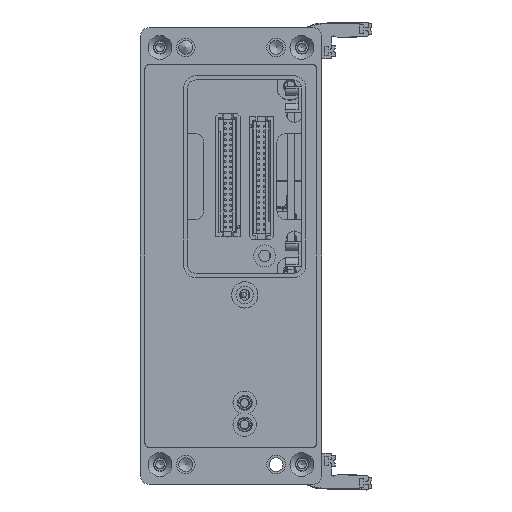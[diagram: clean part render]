
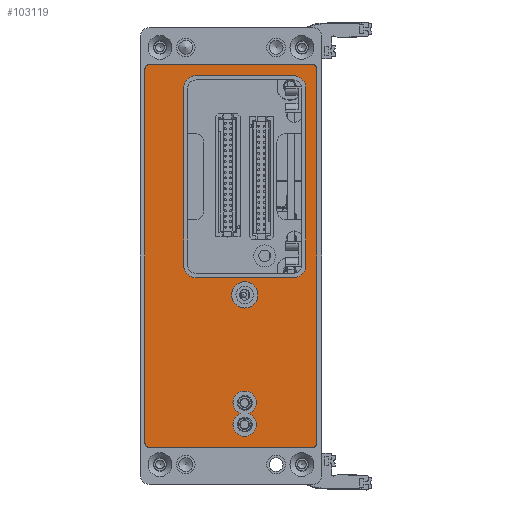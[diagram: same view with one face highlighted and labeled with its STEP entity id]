
A CAD part, front view. The second image highlights one B-rep face of the part: STEP entity #103119.
In plain terms, the highlighted planar face has unit normal (0, -1, 0).
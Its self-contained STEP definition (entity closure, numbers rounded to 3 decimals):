
#2985=FACE_BOUND('',#16515,.T.);
#2986=FACE_BOUND('',#16516,.T.);
#2987=FACE_BOUND('',#16517,.T.);
#5785=PLANE('',#110947);
#10614=FACE_OUTER_BOUND('',#16514,.T.);
#16514=EDGE_LOOP('',(#87901,#87902,#87903,#87904,#87905,#87906,#87907,#87908));
#16515=EDGE_LOOP('',(#87909,#87910));
#16516=EDGE_LOOP('',(#87911));
#16517=EDGE_LOOP('',(#87912,#87913,#87914,#87915,#87916,#87917,#87918,#87919));
#25608=LINE('',#174762,#35059);
#25612=LINE('',#174774,#35063);
#25616=LINE('',#174786,#35067);
#25620=LINE('',#174796,#35071);
#25623=LINE('',#174804,#35074);
#25627=LINE('',#174816,#35078);
#25631=LINE('',#174828,#35082);
#25635=LINE('',#174840,#35086);
#35059=VECTOR('',#134595,10.);
#35063=VECTOR('',#134607,10.);
#35067=VECTOR('',#134619,10.);
#35071=VECTOR('',#134631,10.);
#35074=VECTOR('',#134636,10.);
#35078=VECTOR('',#134648,10.);
#35082=VECTOR('',#134660,10.);
#35086=VECTOR('',#134672,10.);
#38922=CIRCLE('',#110908,2.725);
#38924=CIRCLE('',#110911,2.725);
#38925=CIRCLE('',#110913,3.05);
#38928=CIRCLE('',#110917,2.925);
#38930=CIRCLE('',#110921,2.925);
#38932=CIRCLE('',#110925,2.925);
#38934=CIRCLE('',#110929,2.925);
#38936=CIRCLE('',#110934,1.);
#38938=CIRCLE('',#110938,1.);
#38940=CIRCLE('',#110942,1.);
#38942=CIRCLE('',#110946,1.);
#47710=VERTEX_POINT('',#174735);
#47711=VERTEX_POINT('',#174737);
#47712=VERTEX_POINT('',#174744);
#47716=VERTEX_POINT('',#174753);
#47717=VERTEX_POINT('',#174755);
#47719=VERTEX_POINT('',#174761);
#47721=VERTEX_POINT('',#174767);
#47723=VERTEX_POINT('',#174773);
#47725=VERTEX_POINT('',#174779);
#47727=VERTEX_POINT('',#174785);
#47729=VERTEX_POINT('',#174791);
#47732=VERTEX_POINT('',#174801);
#47733=VERTEX_POINT('',#174803);
#47735=VERTEX_POINT('',#174809);
#47737=VERTEX_POINT('',#174815);
#47739=VERTEX_POINT('',#174821);
#47741=VERTEX_POINT('',#174827);
#47743=VERTEX_POINT('',#174833);
#47745=VERTEX_POINT('',#174839);
#61318=EDGE_CURVE('',#47711,#47710,#38922,.T.);
#61321=EDGE_CURVE('',#47710,#47711,#38924,.T.);
#61322=EDGE_CURVE('',#47712,#47712,#38925,.T.);
#61327=EDGE_CURVE('',#47717,#47716,#38928,.T.);
#61330=EDGE_CURVE('',#47719,#47717,#25608,.T.);
#61333=EDGE_CURVE('',#47721,#47719,#38930,.T.);
#61336=EDGE_CURVE('',#47723,#47721,#25612,.T.);
#61339=EDGE_CURVE('',#47725,#47723,#38932,.T.);
#61342=EDGE_CURVE('',#47727,#47725,#25616,.T.);
#61345=EDGE_CURVE('',#47729,#47727,#38934,.T.);
#61348=EDGE_CURVE('',#47716,#47729,#25620,.T.);
#61351=EDGE_CURVE('',#47733,#47732,#25623,.T.);
#61354=EDGE_CURVE('',#47735,#47733,#38936,.T.);
#61357=EDGE_CURVE('',#47737,#47735,#25627,.T.);
#61360=EDGE_CURVE('',#47739,#47737,#38938,.T.);
#61363=EDGE_CURVE('',#47741,#47739,#25631,.T.);
#61366=EDGE_CURVE('',#47743,#47741,#38940,.T.);
#61369=EDGE_CURVE('',#47745,#47743,#25635,.T.);
#61372=EDGE_CURVE('',#47732,#47745,#38942,.T.);
#87901=ORIENTED_EDGE('',*,*,#61363,.T.);
#87902=ORIENTED_EDGE('',*,*,#61360,.T.);
#87903=ORIENTED_EDGE('',*,*,#61357,.T.);
#87904=ORIENTED_EDGE('',*,*,#61354,.T.);
#87905=ORIENTED_EDGE('',*,*,#61351,.T.);
#87906=ORIENTED_EDGE('',*,*,#61372,.T.);
#87907=ORIENTED_EDGE('',*,*,#61369,.T.);
#87908=ORIENTED_EDGE('',*,*,#61366,.T.);
#87909=ORIENTED_EDGE('',*,*,#61321,.T.);
#87910=ORIENTED_EDGE('',*,*,#61318,.T.);
#87911=ORIENTED_EDGE('',*,*,#61322,.T.);
#87912=ORIENTED_EDGE('',*,*,#61339,.T.);
#87913=ORIENTED_EDGE('',*,*,#61336,.T.);
#87914=ORIENTED_EDGE('',*,*,#61333,.T.);
#87915=ORIENTED_EDGE('',*,*,#61330,.T.);
#87916=ORIENTED_EDGE('',*,*,#61327,.T.);
#87917=ORIENTED_EDGE('',*,*,#61348,.T.);
#87918=ORIENTED_EDGE('',*,*,#61345,.T.);
#87919=ORIENTED_EDGE('',*,*,#61342,.T.);
#103119=ADVANCED_FACE('',(#10614,#2985,#2986,#2987),#5785,.T.);
#110908=AXIS2_PLACEMENT_3D('',#174738,#134568,#134569);
#110911=AXIS2_PLACEMENT_3D('',#174742,#134575,#134576);
#110913=AXIS2_PLACEMENT_3D('',#174745,#134579,#134580);
#110917=AXIS2_PLACEMENT_3D('',#174756,#134589,#134590);
#110921=AXIS2_PLACEMENT_3D('',#174768,#134601,#134602);
#110925=AXIS2_PLACEMENT_3D('',#174780,#134613,#134614);
#110929=AXIS2_PLACEMENT_3D('',#174792,#134625,#134626);
#110934=AXIS2_PLACEMENT_3D('',#174810,#134642,#134643);
#110938=AXIS2_PLACEMENT_3D('',#174822,#134654,#134655);
#110942=AXIS2_PLACEMENT_3D('',#174834,#134666,#134667);
#110946=AXIS2_PLACEMENT_3D('',#174844,#134678,#134679);
#110947=AXIS2_PLACEMENT_3D('',#174845,#134680,#134681);
#134568=DIRECTION('center_axis',(0.,1.,0.));
#134569=DIRECTION('ref_axis',(-1.,0.,0.));
#134575=DIRECTION('center_axis',(0.,1.,0.));
#134576=DIRECTION('ref_axis',(-1.,0.,0.));
#134579=DIRECTION('center_axis',(0.,1.,0.));
#134580=DIRECTION('ref_axis',(-1.,0.,0.));
#134589=DIRECTION('center_axis',(0.,1.,0.));
#134590=DIRECTION('ref_axis',(-1.,0.,0.));
#134595=DIRECTION('',(1.,0.,0.));
#134601=DIRECTION('center_axis',(0.,1.,0.));
#134602=DIRECTION('ref_axis',(0.,0.,
-1.));
#134607=DIRECTION('',(0.,0.,1.));
#134613=DIRECTION('center_axis',(0.,1.,0.));
#134614=DIRECTION('ref_axis',(1.,0.,0.));
#134619=DIRECTION('',(-1.,0.,0.));
#134625=DIRECTION('center_axis',(0.,1.,0.));
#134626=DIRECTION('ref_axis',(0.,0.,
1.));
#134631=DIRECTION('',(0.,0.,-1.));
#134636=DIRECTION('',(-1.,0.,0.));
#134642=DIRECTION('center_axis',(0.,-1.,0.));
#134643=DIRECTION('ref_axis',(1.,0.,0.));
#134648=DIRECTION('',(0.,0.,1.));
#134654=DIRECTION('center_axis',(0.,-1.,0.));
#134655=DIRECTION('ref_axis',(0.,0.,
-1.));
#134660=DIRECTION('',(1.,0.,0.));
#134666=DIRECTION('center_axis',(0.,-1.,0.));
#134667=DIRECTION('ref_axis',(-1.,0.,0.));
#134672=DIRECTION('',(0.,0.,-1.));
#134678=DIRECTION('center_axis',(0.,-1.,0.));
#134679=DIRECTION('ref_axis',(0.,0.,
1.));
#134680=DIRECTION('center_axis',(0.,-1.,0.));
#134681=DIRECTION('ref_axis',(0.,0.,
-1.));
#174735=CARTESIAN_POINT('',(2.213,-125.105,-89.66));
#174737=CARTESIAN_POINT('',(4.187,-125.105,-89.66));
#174738=CARTESIAN_POINT('Origin',(3.2,-125.105,-92.2));
#174742=CARTESIAN_POINT('Origin',(3.2,-125.105,-87.12));
#174744=CARTESIAN_POINT('',(6.25,-125.105,-62.05));
#174745=CARTESIAN_POINT('Origin',(3.2,-125.105,-62.05));
#174753=CARTESIAN_POINT('',(17.425,-125.105,-13.975));
#174755=CARTESIAN_POINT('',(14.5,-125.105,-11.05));
#174756=CARTESIAN_POINT('Origin',(14.5,-125.105,-13.975));
#174761=CARTESIAN_POINT('',(-8.1,-125.105,-11.05));
#174762=CARTESIAN_POINT('',(-4.05,-125.105,-11.05));
#174767=CARTESIAN_POINT('',(-11.025,-125.105,-13.975));
#174768=CARTESIAN_POINT('Origin',(-8.1,-125.105,-13.975));
#174773=CARTESIAN_POINT('',(-11.025,-125.105,-55.125));
#174774=CARTESIAN_POINT('',(-11.025,-125.105,-54.063));
#174779=CARTESIAN_POINT('',(-8.1,-125.105,-58.05));
#174780=CARTESIAN_POINT('Origin',(-8.1,-125.105,-55.125));
#174785=CARTESIAN_POINT('',(14.5,-125.105,-58.05));
#174786=CARTESIAN_POINT('',(7.25,-125.105,-58.05));
#174791=CARTESIAN_POINT('',(17.425,-125.105,-55.125));
#174792=CARTESIAN_POINT('Origin',(14.5,-125.105,-55.125));
#174796=CARTESIAN_POINT('',(17.425,-125.105,-33.488));
#174801=CARTESIAN_POINT('',(-19.,-125.105,-8.5));
#174803=CARTESIAN_POINT('',(19.,-125.105,-8.5));
#174804=CARTESIAN_POINT('',(-9.5,-125.105,-8.5));
#174809=CARTESIAN_POINT('',(20.,-125.105,-9.5));
#174810=CARTESIAN_POINT('Origin',(19.,-125.105,-9.5));
#174815=CARTESIAN_POINT('',(20.,-125.105,-96.5));
#174816=CARTESIAN_POINT('',(20.,-125.105,-31.25));
#174821=CARTESIAN_POINT('',(19.,-125.105,-97.5));
#174822=CARTESIAN_POINT('Origin',(19.,-125.105,-96.5));
#174827=CARTESIAN_POINT('',(-19.,-125.105,-97.5));
#174828=CARTESIAN_POINT('',(9.5,-125.105,-97.5));
#174833=CARTESIAN_POINT('',(-20.,-125.105,-96.5));
#174834=CARTESIAN_POINT('Origin',(-19.,-125.105,-96.5));
#174839=CARTESIAN_POINT('',(-20.,-125.105,-9.5));
#174840=CARTESIAN_POINT('',(-20.,-125.105,-74.75));
#174844=CARTESIAN_POINT('Origin',(-19.,-125.105,-9.5));
#174845=CARTESIAN_POINT('Origin',(0.,-125.105,-53.));
